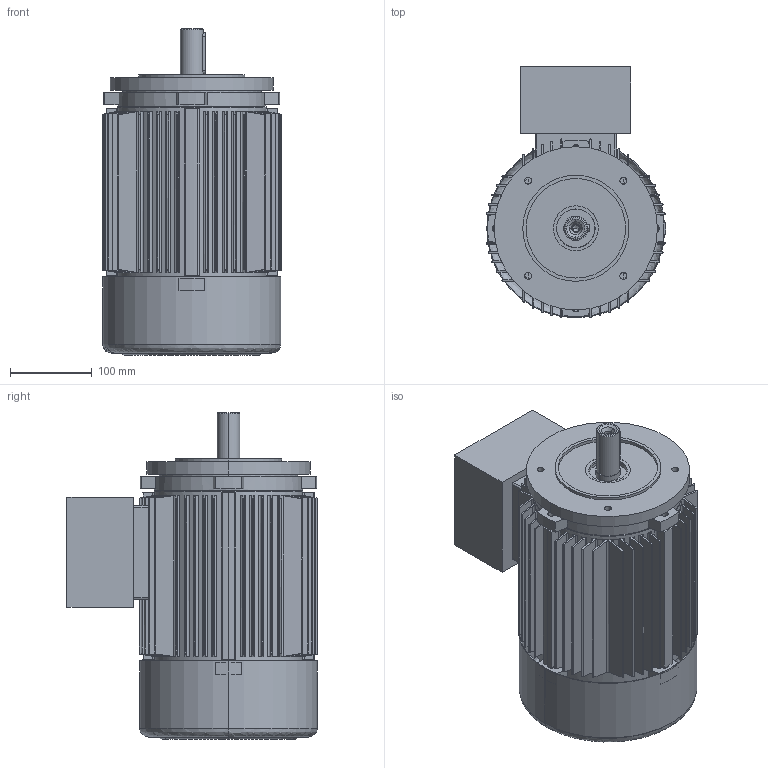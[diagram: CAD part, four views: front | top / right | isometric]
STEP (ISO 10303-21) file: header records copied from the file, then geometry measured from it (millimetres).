
FILE_DESCRIPTION (( 'STEP AP214' ), '1' );
FILE_NAME ('20.17501-D 5AT 112 B14_large Exde STANDK.STEP', '2018-05-11T09:35:16', ( '' ), ( '' ), 'SwSTEP 2.0', 'SolidWorks 2017', '' );
FILE_SCHEMA (( 'AUTOMOTIVE_DESIGN' ));
Length unit declared in the file: millimetre
Products named in the file (1): 20.17501-D 5AT 112 B14_large Exde STANDK
Bounding box: 219.52 x 308.52 x 399.8 mm (x, y, z)
Volume: 5519153.6 mm3; surface area: 1047221.5 mm2
Topology: 4 solids, 5 shells, 751 faces, 1950 edges, 1271 vertices
Faces by surface type: cylinder 336, plane 287, cone 120, bspline 8
Entity records: 32780 total; most frequent: CARTESIAN_POINT 8409, ORIENTED_EDGE 3852, DIRECTION 3523, EDGE_CURVE 1926, AXIS2_PLACEMENT_3D 1321, VERTEX_POINT 1271, VECTOR 881, LINE 881
